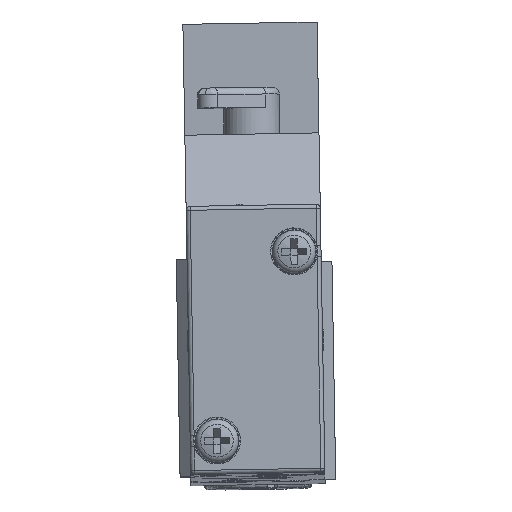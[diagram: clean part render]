
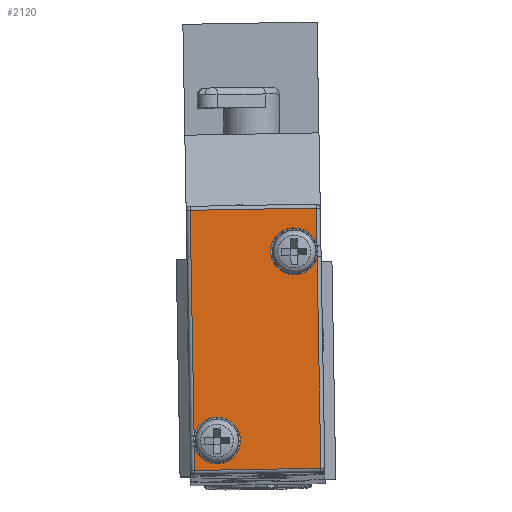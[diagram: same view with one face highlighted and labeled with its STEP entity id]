
A CAD part, left-side view. The second image highlights one B-rep face of the part: STEP entity #2120.
In plain terms, the highlighted planar face has unit normal (-1, 0, 0.017).
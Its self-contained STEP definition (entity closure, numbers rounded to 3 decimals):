
#2047=CARTESIAN_POINT('',(-20.497,0.006,0.358));
#2048=DIRECTION('',(1.,0.,-0.017));
#2049=DIRECTION('',(0.017,0.017,1.));
#2050=AXIS2_PLACEMENT_3D('',#2047,#2048,#2049);
#2051=PLANE('',#2050);
#2052=CARTESIAN_POINT('',(-20.391,-4.587,6.523));
#2053=VERTEX_POINT('',#2052);
#2054=CARTESIAN_POINT('',(-20.376,-4.572,7.353));
#2055=VERTEX_POINT('',#2054);
#2056=CARTESIAN_POINT('',(-20.383,-2.88,6.908));
#2057=DIRECTION('',(1.,0.,-0.017));
#2058=DIRECTION('',(0.,-1.,0.017));
#2059=AXIS2_PLACEMENT_3D('',#2056,#2057,#2058);
#2060=CIRCLE('',#2059,1.75);
#2061=EDGE_CURVE('',#2053,#2055,#2060,.T.);
#2062=ORIENTED_EDGE('',*,*,#2061,.T.);
#2063=CARTESIAN_POINT('',(-20.328,-4.524,10.137));
#2064=VERTEX_POINT('',#2063);
#2065=CARTESIAN_POINT('',(-20.328,-4.524,10.137));
#2066=DIRECTION('',(-0.017,-0.017,-1.));
#2067=VECTOR('',#2066,2.785);
#2068=LINE('',#2065,#2067);
#2069=EDGE_CURVE('',#2055,#2064,#2068,.F.);
#2070=ORIENTED_EDGE('',*,*,#2069,.T.);
#2071=CARTESIAN_POINT('',(-20.328,4.875,9.973));
#2072=VERTEX_POINT('',#2071);
#2073=CARTESIAN_POINT('',(-20.328,4.875,9.973));
#2074=DIRECTION('',(0.,-1.,0.017));
#2075=VECTOR('',#2074,9.4);
#2076=LINE('',#2073,#2075);
#2077=EDGE_CURVE('',#2064,#2072,#2076,.F.);
#2078=ORIENTED_EDGE('',*,*,#2077,.T.);
#2079=CARTESIAN_POINT('',(-20.621,4.582,-6.807));
#2080=VERTEX_POINT('',#2079);
#2081=CARTESIAN_POINT('',(-20.621,4.582,-6.807));
#2082=DIRECTION('',(0.017,0.017,1.));
#2083=VECTOR('',#2082,16.785);
#2084=LINE('',#2081,#2083);
#2085=EDGE_CURVE('',#2072,#2080,#2084,.F.);
#2086=ORIENTED_EDGE('',*,*,#2085,.T.);
#2087=CARTESIAN_POINT('',(-20.635,4.567,-7.637));
#2088=VERTEX_POINT('',#2087);
#2089=CARTESIAN_POINT('',(-20.628,2.875,-7.192));
#2090=DIRECTION('',(1.,0.,-0.017));
#2091=DIRECTION('',(0.,-1.,0.017));
#2092=AXIS2_PLACEMENT_3D('',#2089,#2090,#2091);
#2093=CIRCLE('',#2092,1.75);
#2094=EDGE_CURVE('',#2080,#2088,#2093,.T.);
#2095=ORIENTED_EDGE('',*,*,#2094,.T.);
#2096=CARTESIAN_POINT('',(-20.666,4.536,-9.421));
#2097=VERTEX_POINT('',#2096);
#2098=CARTESIAN_POINT('',(-20.666,4.536,-9.421));
#2099=DIRECTION('',(0.017,0.017,1.));
#2100=VECTOR('',#2099,1.785);
#2101=LINE('',#2098,#2100);
#2102=EDGE_CURVE('',#2088,#2097,#2101,.F.);
#2103=ORIENTED_EDGE('',*,*,#2102,.T.);
#2104=CARTESIAN_POINT('',(-20.666,-4.862,-9.257));
#2105=VERTEX_POINT('',#2104);
#2106=CARTESIAN_POINT('',(-20.666,-4.862,-9.257));
#2107=DIRECTION('',(0.,1.,-0.017));
#2108=VECTOR('',#2107,9.4);
#2109=LINE('',#2106,#2108);
#2110=EDGE_CURVE('',#2097,#2105,#2109,.F.);
#2111=ORIENTED_EDGE('',*,*,#2110,.T.);
#2112=CARTESIAN_POINT('',(-20.391,-4.587,6.523));
#2113=DIRECTION('',(-0.017,-0.017,-1.));
#2114=VECTOR('',#2113,15.785);
#2115=LINE('',#2112,#2114);
#2116=EDGE_CURVE('',#2105,#2053,#2115,.F.);
#2117=ORIENTED_EDGE('',*,*,#2116,.T.);
#2118=EDGE_LOOP('',(#2062,#2070,#2078,#2086,#2095,#2103,#2111,#2117));
#2119=FACE_OUTER_BOUND('',#2118,.T.);
#2120=ADVANCED_FACE('',(#2119),#2051,.F.);
